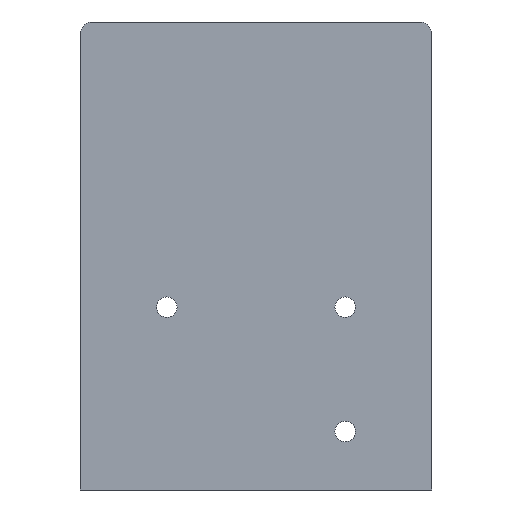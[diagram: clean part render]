
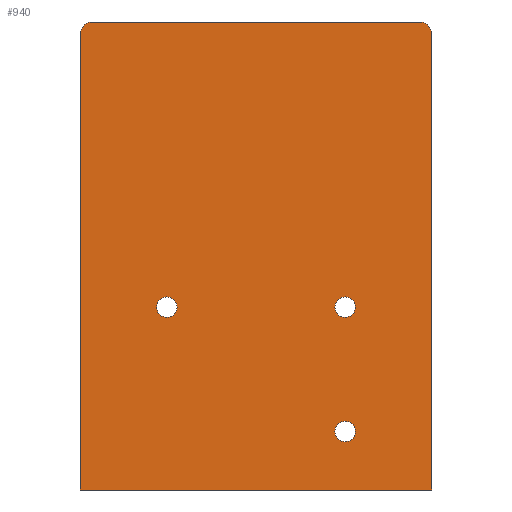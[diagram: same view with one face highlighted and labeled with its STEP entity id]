
A CAD part, front view. The second image highlights one B-rep face of the part: STEP entity #940.
In plain terms, the highlighted planar face has unit normal (0, -1, 0).
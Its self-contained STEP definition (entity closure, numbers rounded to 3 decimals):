
#13 = CARTESIAN_POINT ( 'NONE',  ( 45.25, 10., -45. ) ) ;
#40 = CARTESIAN_POINT ( 'NONE',  ( 45.25, 10., -46.75 ) ) ;
#76 = FACE_OUTER_BOUND ( 'NONE', #1703, .T. ) ;
#94 = AXIS2_PLACEMENT_3D ( 'NONE', #163, #2713, #341 ) ;
#96 = CARTESIAN_POINT ( 'NONE',  ( 60., 10., 25. ) ) ;
#106 = AXIS2_PLACEMENT_3D ( 'NONE', #2742, #2063, #380 ) ;
#117 = CIRCLE ( 'NONE', #1673, 2. ) ;
#163 = CARTESIAN_POINT ( 'NONE',  ( 45.25, 10., -45. ) ) ;
#164 = VECTOR ( 'NONE', #953, 1000. ) ;
#256 = CARTESIAN_POINT ( 'NONE',  ( 2., 10., 25. ) ) ;
#265 = EDGE_CURVE ( 'NONE', #787, #751, #1542, .T. ) ;
#276 = ORIENTED_EDGE ( 'NONE', *, *, #265, .T. ) ;
#341 = DIRECTION ( 'NONE',  ( 0., 0., 1. ) ) ;
#350 = CARTESIAN_POINT ( 'NONE',  ( 0., 10., 25. ) ) ;
#356 = VERTEX_POINT ( 'NONE', #1449 ) ;
#377 = CIRCLE ( 'NONE', #2244, 1.75 ) ;
#380 = DIRECTION ( 'NONE',  ( 0., 0., 1. ) ) ;
#479 = VERTEX_POINT ( 'NONE', #948 ) ;
#509 = VECTOR ( 'NONE', #1108, 1000. ) ;
#550 = AXIS2_PLACEMENT_3D ( 'NONE', #13, #2086, #1912 ) ;
#562 = CARTESIAN_POINT ( 'NONE',  ( 45.25, 10., -22. ) ) ;
#618 = EDGE_CURVE ( 'NONE', #803, #668, #2696, .T. ) ;
#649 = CARTESIAN_POINT ( 'NONE',  ( 14.75, 10., -23.75 ) ) ;
#668 = VERTEX_POINT ( 'NONE', #562 ) ;
#739 = ORIENTED_EDGE ( 'NONE', *, *, #2090, .F. ) ;
#751 = VERTEX_POINT ( 'NONE', #2340 ) ;
#773 = ORIENTED_EDGE ( 'NONE', *, *, #1724, .T. ) ;
#787 = VERTEX_POINT ( 'NONE', #256 ) ;
#799 = EDGE_CURVE ( 'NONE', #1999, #479, #2565, .T. ) ;
#803 = VERTEX_POINT ( 'NONE', #1686 ) ;
#830 = DIRECTION ( 'NONE',  ( 0., 1., 0. ) ) ;
#860 = VERTEX_POINT ( 'NONE', #2189 ) ;
#865 = AXIS2_PLACEMENT_3D ( 'NONE', #1151, #1739, #1962 ) ;
#871 = VERTEX_POINT ( 'NONE', #2403 ) ;
#940 = ADVANCED_FACE ( 'NONE', ( #1312, #1756, #2216, #76 ), #2609, .F. ) ;
#948 = CARTESIAN_POINT ( 'NONE',  ( 14.75, 10., -22. ) ) ;
#953 = DIRECTION ( 'NONE',  ( 0., 0., -1. ) ) ;
#971 = DIRECTION ( 'NONE',  ( 0., 0., 1. ) ) ;
#1006 = DIRECTION ( 'NONE',  ( 0., 0., 1. ) ) ;
#1011 = CIRCLE ( 'NONE', #2346, 1.75 ) ;
#1044 = ORIENTED_EDGE ( 'NONE', *, *, #799, .T. ) ;
#1046 = CARTESIAN_POINT ( 'NONE',  ( 2., 10., 23. ) ) ;
#1108 = DIRECTION ( 'NONE',  ( -1., 0., 0. ) ) ;
#1135 = EDGE_LOOP ( 'NONE', ( #1959, #1044 ) ) ;
#1142 = ORIENTED_EDGE ( 'NONE', *, *, #2358, .T. ) ;
#1148 = EDGE_CURVE ( 'NONE', #356, #787, #1896, .T. ) ;
#1151 = CARTESIAN_POINT ( 'NONE',  ( 0., 10., -25. ) ) ;
#1158 = LINE ( 'NONE', #96, #164 ) ;
#1200 = ORIENTED_EDGE ( 'NONE', *, *, #1470, .F. ) ;
#1230 = DIRECTION ( 'NONE',  ( 0., -1., 0. ) ) ;
#1245 = DIRECTION ( 'NONE',  ( 0., -1., 0. ) ) ;
#1309 = VECTOR ( 'NONE', #1705, 1000. ) ;
#1312 = FACE_BOUND ( 'NONE', #1135, .T. ) ;
#1326 = ORIENTED_EDGE ( 'NONE', *, *, #1982, .T. ) ;
#1327 = LINE ( 'NONE', #2608, #509 ) ;
#1336 = EDGE_LOOP ( 'NONE', ( #1142, #2466 ) ) ;
#1340 = ORIENTED_EDGE ( 'NONE', *, *, #1148, .T. ) ;
#1376 = ORIENTED_EDGE ( 'NONE', *, *, #1887, .T. ) ;
#1428 = EDGE_LOOP ( 'NONE', ( #1326, #1376 ) ) ;
#1449 = CARTESIAN_POINT ( 'NONE',  ( 58., 10., 25. ) ) ;
#1450 = CARTESIAN_POINT ( 'NONE',  ( 14.75, 10., -23.75 ) ) ;
#1461 = VERTEX_POINT ( 'NONE', #2453 ) ;
#1470 = EDGE_CURVE ( 'NONE', #1461, #871, #1158, .T. ) ;
#1542 = CIRCLE ( 'NONE', #2396, 2. ) ;
#1572 = EDGE_CURVE ( 'NONE', #479, #1999, #1011, .T. ) ;
#1641 = DIRECTION ( 'NONE',  ( 0., 1., 0. ) ) ;
#1646 = CARTESIAN_POINT ( 'NONE',  ( 0., 10., 25. ) ) ;
#1666 = AXIS2_PLACEMENT_3D ( 'NONE', #649, #830, #1745 ) ;
#1673 = AXIS2_PLACEMENT_3D ( 'NONE', #1725, #1230, #1685 ) ;
#1685 = DIRECTION ( 'NONE',  ( 0., 0., 1. ) ) ;
#1686 = CARTESIAN_POINT ( 'NONE',  ( 45.25, 10., -25.5 ) ) ;
#1703 = EDGE_LOOP ( 'NONE', ( #1200, #773, #1340, #276, #2616, #739 ) ) ;
#1705 = DIRECTION ( 'NONE',  ( -1., 0., 0. ) ) ;
#1724 = EDGE_CURVE ( 'NONE', #1461, #356, #117, .T. ) ;
#1725 = CARTESIAN_POINT ( 'NONE',  ( 58., 10., 23. ) ) ;
#1739 = DIRECTION ( 'NONE',  ( 0., 1., 0. ) ) ;
#1745 = DIRECTION ( 'NONE',  ( 0., 0., 1. ) ) ;
#1753 = VERTEX_POINT ( 'NONE', #2324 ) ;
#1756 = FACE_BOUND ( 'NONE', #1336, .T. ) ;
#1840 = DIRECTION ( 'NONE',  ( 0., 0., 1. ) ) ;
#1887 = EDGE_CURVE ( 'NONE', #2576, #1753, #2371, .T. ) ;
#1896 = LINE ( 'NONE', #1646, #1309 ) ;
#1912 = DIRECTION ( 'NONE',  ( 0., 0., 1. ) ) ;
#1932 = CARTESIAN_POINT ( 'NONE',  ( 14.75, 10., -25.5 ) ) ;
#1959 = ORIENTED_EDGE ( 'NONE', *, *, #1572, .T. ) ;
#1962 = DIRECTION ( 'NONE',  ( 0., 0., 1. ) ) ;
#1982 = EDGE_CURVE ( 'NONE', #1753, #2576, #2241, .T. ) ;
#1999 = VERTEX_POINT ( 'NONE', #1932 ) ;
#2063 = DIRECTION ( 'NONE',  ( 0., 1., 0. ) ) ;
#2086 = DIRECTION ( 'NONE',  ( 0., 1., 0. ) ) ;
#2090 = EDGE_CURVE ( 'NONE', #871, #860, #1327, .T. ) ;
#2106 = VECTOR ( 'NONE', #971, 1000. ) ;
#2189 = CARTESIAN_POINT ( 'NONE',  ( 0., 10., -55. ) ) ;
#2216 = FACE_BOUND ( 'NONE', #1428, .T. ) ;
#2240 = DIRECTION ( 'NONE',  ( 0., 1., 0. ) ) ;
#2241 = CIRCLE ( 'NONE', #550, 1.75 ) ;
#2244 = AXIS2_PLACEMENT_3D ( 'NONE', #2255, #2240, #1840 ) ;
#2255 = CARTESIAN_POINT ( 'NONE',  ( 45.25, 10., -23.75 ) ) ;
#2271 = LINE ( 'NONE', #350, #2106 ) ;
#2275 = EDGE_CURVE ( 'NONE', #860, #751, #2271, .T. ) ;
#2324 = CARTESIAN_POINT ( 'NONE',  ( 45.25, 10., -43.25 ) ) ;
#2340 = CARTESIAN_POINT ( 'NONE',  ( 0., 10., 23. ) ) ;
#2346 = AXIS2_PLACEMENT_3D ( 'NONE', #1450, #1641, #1006 ) ;
#2358 = EDGE_CURVE ( 'NONE', #668, #803, #377, .T. ) ;
#2371 = CIRCLE ( 'NONE', #94, 1.75 ) ;
#2396 = AXIS2_PLACEMENT_3D ( 'NONE', #1046, #1245, #2518 ) ;
#2403 = CARTESIAN_POINT ( 'NONE',  ( 60., 10., -55. ) ) ;
#2453 = CARTESIAN_POINT ( 'NONE',  ( 60., 10., 23. ) ) ;
#2466 = ORIENTED_EDGE ( 'NONE', *, *, #618, .T. ) ;
#2518 = DIRECTION ( 'NONE',  ( 0., 0., 1. ) ) ;
#2565 = CIRCLE ( 'NONE', #1666, 1.75 ) ;
#2576 = VERTEX_POINT ( 'NONE', #40 ) ;
#2608 = CARTESIAN_POINT ( 'NONE',  ( 60., 10., -55. ) ) ;
#2609 = PLANE ( 'NONE',  #865 ) ;
#2616 = ORIENTED_EDGE ( 'NONE', *, *, #2275, .F. ) ;
#2696 = CIRCLE ( 'NONE', #106, 1.75 ) ;
#2713 = DIRECTION ( 'NONE',  ( 0., 1., 0. ) ) ;
#2742 = CARTESIAN_POINT ( 'NONE',  ( 45.25, 10., -23.75 ) ) ;
